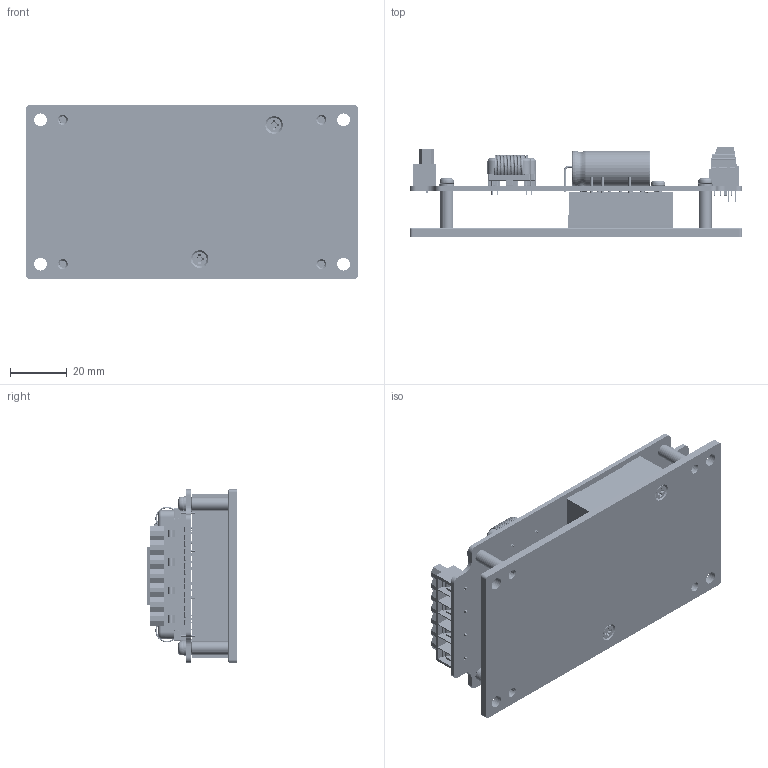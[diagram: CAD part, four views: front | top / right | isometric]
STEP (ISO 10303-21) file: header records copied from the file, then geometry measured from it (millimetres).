
FILE_DESCRIPTION (( 'STEP AP203' ), '1' );
FILE_NAME ('CQBXXX-300S-CMFC 202.07.19.STEP', '2023-07-20T00:14:57', ( '' ), ( '' ), 'SwSTEP 2.0', 'SolidWorks 2020', '' );
FILE_SCHEMA (( 'CONFIG_CONTROL_DESIGN' ));
Products named in the file (1): CQBXXX-300S-CMFC 202.07.19
Bounding box: 116.84 x 31.5 x 60.96 mm (x, y, z)
Volume: 71210.8 mm3; surface area: 53673.8 mm2
Topology: 16 solids, 16 shells, 2607 faces, 8865 edges, 5664 vertices
Faces by surface type: plane 1529, bspline 517, cylinder 378, cone 98, torus 51, sphere 34
Full cylindrical faces by diameter (mm): 0.5 x8, 0.8 x6, 0.9 x4, 1 x14, 1.15 x6, 1.2 x6, 1.5 x4, 1.65 x2, 1.8 x2, 2.2 x12, 2.6 x7, 3.2 x9, 3.25 x1, 3.5 x4, 3.8 x4, 3.9 x7, 4 x6, 4.3 x2, 4.445 x1, 4.45 x4, 4.5 x7, 4.7 x10, 5 x4, 7.8 x1, 8 x1, 8.8 x1, 12.6 x2
Entity records: 465671 total; most frequent: CARTESIAN_POINT 397323, ORIENTED_EDGE 17112, DIRECTION 10502, EDGE_CURVE 8556, VERTEX_POINT 5584, VECTOR 4328, LINE 4328, EDGE_LOOP 3198
